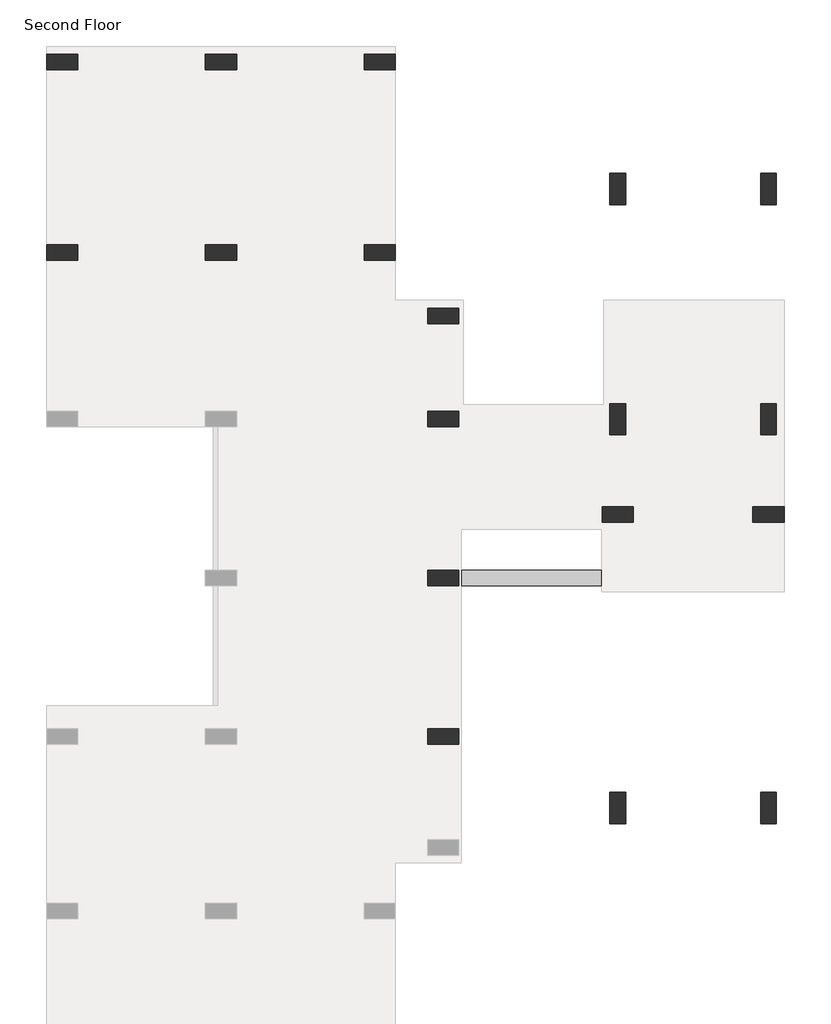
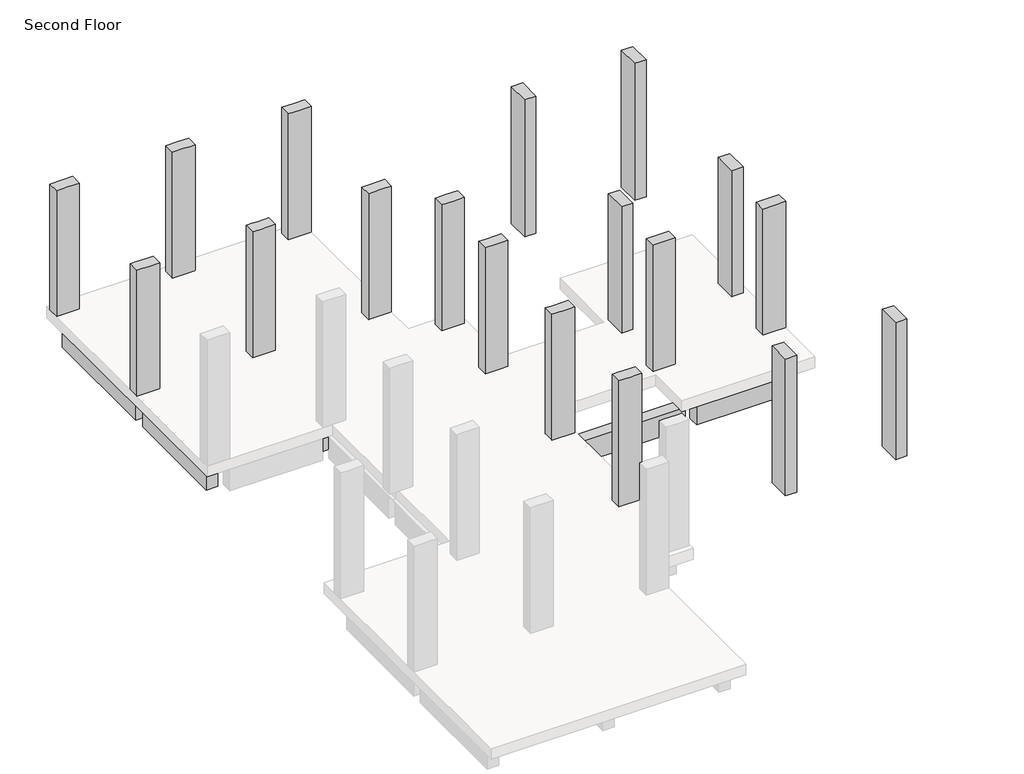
# One storey, part 2 of 2: 20 beams, 18 columns.
"""IFC4 building model written with IfcOpenShell, lengths in millimetres."""

import ifcopenshell
import ifcopenshell.guid

model = None  # the IFC model being written
_history = None  # IfcOwnerHistory: only IFC2X3 demands one
_inside = {}  # id of a spatial element -> (the spatial element, [elements in it])
_under = {}  # id of a project, library or spatial element -> (it, [spatial elements below it])
_declared = {}  # id of a project -> (the project, [libraries it declares])
_typed = {}  # id of a type object -> (the type object, [elements of that type])
_made_of = {}  # id of a material, layer set ... -> (it, [elements and type objects made of it])


def new_model(schema):
    """Start an empty IFC model of exactly this schema.

    Asked for "IFC4X3", IfcOpenShell would pick the latest addendum, in which some entities
    have other attributes; the version numbers below select the first issue.
    IFC2X3 requires an IfcOwnerHistory on every rooted entity: one is made here for all.
    """
    global model, _history
    if schema == "IFC4X3":
        model = ifcopenshell.file(schema_version=(4, 3, 0, 0))
    else:
        model = ifcopenshell.file(schema=schema)
    _inside.clear()
    _under.clear()
    _declared.clear()
    _typed.clear()
    _made_of.clear()
    _history = None
    if model.schema == "IFC2X3":
        org = make("IfcOrganization", Name="unknown")
        user = make(
            "IfcPersonAndOrganization",
            ThePerson=make("IfcPerson", FamilyName="unknown"),
            TheOrganization=org,
        )
        app = make(
            "IfcApplication",
            ApplicationDeveloper=org,
            Version="unknown",
            ApplicationFullName="unknown",
            ApplicationIdentifier="unknown",
        )
        _history = make(
            "IfcOwnerHistory",
            OwningUser=user,
            OwningApplication=app,
            ChangeAction="ADDED",
            CreationDate=0,
        )
    return model


def make(cls, **values):
    """One entity of the class cls with the attributes given. An attribute that is None is left unset."""
    return model.create_entity(
        cls, **{name: value for name, value in values.items() if value is not None}
    )


def rooted(cls, **values):
    """An entity with a GlobalId (a new one), such as an element, a storey or a relation."""
    return make(cls, GlobalId=ifcopenshell.guid.new(), OwnerHistory=_history, **values)


def si_unit(unit_type, name, prefix=None):
    """IfcSIUnit, for example si_unit("LENGTHUNIT", "METRE", prefix="MILLI")."""
    return make("IfcSIUnit", UnitType=unit_type, Prefix=prefix, Name=name)


def assignment(units):
    """IfcUnitAssignment: the units of a project."""
    return None if units is None else make("IfcUnitAssignment", Units=units)


def point(xyz):
    """IfcCartesianPoint."""
    return None if xyz is None else make("IfcCartesianPoint", Coordinates=xyz)


def direction(xyz):
    """IfcDirection."""
    return None if xyz is None else make("IfcDirection", DirectionRatios=xyz)


def frame(location, z_axis=None, x_axis=None):
    """IfcAxis2Placement3D, a coordinate frame: its origin and axes. An axis left out is left unset."""
    return make(
        "IfcAxis2Placement3D",
        Location=point(location),
        Axis=direction(z_axis),
        RefDirection=direction(x_axis),
    )


def origin():
    """The frame at (0, 0, 0) with its axes left unset."""
    return frame((0.0, 0.0, 0.0))


def place(relative_to, where):
    """IfcLocalPlacement: puts the frame where relative to a parent placement (None: the world)."""
    return make(
        "IfcLocalPlacement", PlacementRelTo=relative_to, RelativePlacement=where
    )


def context(
    kind, dimensions, precision=None, world=None, true_north=None, identifier=None
):
    """IfcGeometricRepresentationContext, for example the 3D "Model" context."""
    return make(
        "IfcGeometricRepresentationContext",
        ContextIdentifier=identifier,
        ContextType=kind,
        CoordinateSpaceDimension=dimensions,
        Precision=precision,
        WorldCoordinateSystem=world,
        TrueNorth=true_north,
    )


def project(units=None, contexts=None):
    """IfcProject with its units and contexts."""
    return rooted(
        "IfcProject",
        Name="project",
        RepresentationContexts=contexts,
        UnitsInContext=assignment(units),
    )


def spatial(cls, under=None, at=None, **own):
    """A site, building, storey or space (cls), placed at a placement, below another one or the project."""
    s = rooted(cls, ObjectPlacement=at, **own)
    if under is not None:
        _under.setdefault(under.id(), (under, []))[1].append(s)
    return s


def polyline(points):
    """IfcPolyline through the points."""
    return make("IfcPolyline", Points=[point(p) for p in points])


def outline(outer, holes=None, kind="AREA"):
    """IfcArbitraryClosedProfileDef: a profile drawn as a closed curve; with holes, ...WithVoids."""
    if holes is None:
        return make("IfcArbitraryClosedProfileDef", ProfileType=kind, OuterCurve=outer)
    return make(
        "IfcArbitraryProfileDefWithVoids",
        ProfileType=kind,
        OuterCurve=outer,
        InnerCurves=holes,
    )


def extrude(swept, where, along, depth):
    """IfcExtrudedAreaSolid: the profile swept, set in the frame where, extruded along a direction by depth."""
    return make(
        "IfcExtrudedAreaSolid",
        SweptArea=swept,
        Position=where,
        ExtrudedDirection=direction(along),
        Depth=depth,
    )


def faces_of(points, faces, orient=None, outer=None):
    """IfcFace entities. A face is a list of loops; a loop is a list of indices into points, from 0.

    orient and outer hold one flag for each loop. By default every Orientation is true, the
    first loop of a face is its IfcFaceOuterBound and the others are IfcFaceBound.
    """
    made = []
    for i, loops in enumerate(faces):
        bounds = []
        for j, loop in enumerate(loops):
            is_outer = j == 0 if outer is None else outer[i][j]
            bounds.append(
                make(
                    "IfcFaceOuterBound" if is_outer else "IfcFaceBound",
                    Bound=make("IfcPolyLoop", Polygon=[points[k] for k in loop]),
                    Orientation=True if orient is None else orient[i][j],
                )
            )
        made.append(make("IfcFace", Bounds=bounds))
    return made


def faceted_brep(points, faces, orient=None, outer=None, voids=None):
    """IfcFacetedBrep: a solid bounded by flat faces; with voids (closed shells), ...WithVoids."""
    shared = [point(p) for p in points]
    hull = make("IfcClosedShell", CfsFaces=faces_of(shared, faces, orient, outer))
    if voids is None:
        return make("IfcFacetedBrep", Outer=hull)
    return make(
        "IfcFacetedBrepWithVoids",
        Outer=hull,
        Voids=[
            make(cls, CfsFaces=faces_of(shared, fs, o, b)) for cls, fs, o, b in voids
        ],
    )


def shape(context_of_items, identifier, shape_type, items):
    """IfcShapeRepresentation: the items that make up one representation, for example the "Body"."""
    return make(
        "IfcShapeRepresentation",
        ContextOfItems=context_of_items,
        RepresentationIdentifier=identifier,
        RepresentationType=shape_type,
        Items=items,
    )


def made_of(thing, what):
    """Note that an element or type object is made of a material, layer set ...; save() writes the relation."""
    if what is not None:
        _made_of.setdefault(what.id(), (what, []))[1].append(thing)
    return thing


def element(
    cls,
    number,
    at=None,
    inside=None,
    cuts=None,
    type_object=None,
    material=None,
    context=None,
    identifier="Body",
    shape_type=None,
    held_by="IfcProductDefinitionShape",
    body=None,
    shapes=None,
    **own,
):
    """One element of the class cls, such as IfcWall. Its Tag is "e" and its number.

    at: its placement. inside: the storey or other place that contains it. cuts: it is an
    opening in that element (IfcRelVoidsElement). A single representation is given by context,
    identifier, shape_type and body (its items); several are given by shapes. held_by: the class
    of the entity that holds the representations. save() writes the other relations.
    """
    e = rooted(cls, Tag="e%d" % number, ObjectPlacement=at, **own)
    if body is not None:
        shapes = [shape(context, identifier, shape_type, body)]
    if shapes is not None:
        e.Representation = make(held_by, Representations=shapes)
    if inside is not None:
        _inside.setdefault(inside.id(), (inside, []))[1].append(e)
    if cuts is not None:
        rooted(
            "IfcRelVoidsElement", RelatingBuildingElement=cuts, RelatedOpeningElement=e
        )
    if type_object is not None:
        _typed.setdefault(type_object.id(), (type_object, []))[1].append(e)
    return made_of(e, material)


def aggregate(whole, parts):
    """IfcRelAggregates: a whole, such as a stair, and the parts it consists of."""
    return rooted("IfcRelAggregates", RelatingObject=whole, RelatedObjects=parts)


def save(model, path):
    """Write the relations noted so far, then the file.

    IfcRelAggregates (storeys below a building ...), IfcRelContainedInSpatialStructure (elements
    in a storey), IfcRelDefinesByType, IfcRelAssociatesMaterial and IfcRelDeclares: one each for
    every whole, place, type object, material and project.
    """
    for whole, parts in _under.values():
        aggregate(whole, parts)
    for where, things in _inside.values():
        rooted(
            "IfcRelContainedInSpatialStructure",
            RelatedElements=things,
            RelatingStructure=where,
        )
    for kind, things in _typed.values():
        rooted("IfcRelDefinesByType", RelatedObjects=things, RelatingType=kind)
    for what, things in _made_of.values():
        rooted("IfcRelAssociatesMaterial", RelatedObjects=things, RelatingMaterial=what)
    for by, libraries in _declared.values():
        rooted("IfcRelDeclares", RelatingContext=by, RelatedDefinitions=libraries)
    model.write(path)


model = new_model("IFC4")

# Units and contexts
model_context = context("Model", 3, world=origin())
ifc_project = project(units=[si_unit("LENGTHUNIT", "METRE", prefix="MILLI")], contexts=[model_context])

# Site, building, storey
site = spatial("IfcSite", under=ifc_project)
building = spatial("IfcBuilding", under=site)
storey = spatial("IfcBuildingStorey", under=building, Name="Second Floor", Elevation=3810.0)

# Beams
placement = place(None, origin())
element("IfcBeam", 1, ObjectType="M_Concrete-Rectangular Beam : 300 x 600mm", at=placement, inside=storey, context=model_context, shape_type="Brep", body=[
    faceted_brep([(-9783.3472303, 14876.016665, 3510.0), (-12831.3472303, 14876.016665, 3510.0), (-12831.3472303, 14726.016665, 3510.0), (-12831.3472303, 14576.016665, 3510.0), (-12681.3472303, 14576.016665, 3510.0), (-9933.3472303, 14576.016665, 3510.0), (-9783.3472303, 14576.016665, 3510.0), (-9783.3472303, 14726.016665, 3510.0), (-12831.3472303, 14576.016665, 3505.2), (-12531.3472303, 14576.016665, 3505.2), (-12531.3472303, 14576.016665, 2910.0), (-10083.3472303, 14576.016665, 2910.0), (-10083.3472303, 14576.016665, 3505.2), (-9783.3472303, 14576.016665, 3505.2), (-12531.3472303, 14876.016665, 2910.0), (-10083.3472303, 14876.016665, 2910.0), (-9783.3472303, 14876.016665, 3505.2), (-10083.3472303, 14876.016665, 3505.2), (-12531.3472303, 14876.016665, 3505.2), (-12831.3472303, 14876.016665, 3505.2), (-12831.3472303, 14726.016665, 3505.2), (-9783.3472303, 14726.016665, 3505.2)], [[[0, 1, 2, 3, 4, 5, 6, 7]], [[6, 5, 4, 3, 8, 9, 10, 11, 12, 13]], [[10, 14, 15, 11]], [[1, 0, 16, 17, 15, 14, 18, 19]], [[9, 18, 14, 10]], [[18, 9, 8, 20, 19]], [[17, 12, 11, 15]], [[12, 17, 16, 21, 13]], [[3, 2, 1, 19, 20, 8]], [[0, 7, 6, 13, 21, 16]]]),
])
element("IfcBeam", 2, ObjectType="M_Concrete-Rectangular Beam : 300 x 600mm", at=placement, inside=storey, context=model_context, shape_type="Brep", body=[
    faceted_brep([(-6735.3472303, 14876.016665, 3510.0), (-9783.3472303, 14876.016665, 3510.0), (-9783.3472303, 14726.016665, 3510.0), (-9633.3472303, 14726.016665, 3510.0), (-9633.3472303, 14576.016665, 3510.0), (-6885.3472303, 14576.016665, 3510.0), (-6735.3472303, 14576.016665, 3510.0), (-6735.3472303, 14726.016665, 3510.0), (-9483.3472303, 14576.016665, 3505.2), (-9483.3472303, 14576.016665, 2910.0), (-7035.3472303, 14576.016665, 2910.0), (-7035.3472303, 14576.016665, 3505.2), (-6735.3472303, 14576.016665, 3505.2), (-9633.3472303, 14576.016665, 3505.2), (-9483.3472303, 14876.016665, 2910.0), (-7035.3472303, 14876.016665, 2910.0), (-6735.3472303, 14876.016665, 3505.2), (-7035.3472303, 14876.016665, 3505.2), (-9483.3472303, 14876.016665, 3505.2), (-9783.3472303, 14876.016665, 3505.2), (-9633.3472303, 14726.016665, 3505.2), (-9783.3472303, 14726.016665, 3505.2), (-6735.3472303, 14726.016665, 3505.2)], [[[0, 1, 2, 3, 4, 5, 6, 7]], [[8, 9, 10, 11, 12, 6, 5, 4, 13]], [[9, 14, 15, 10]], [[1, 0, 16, 17, 15, 14, 18, 19]], [[8, 18, 14, 9]], [[18, 8, 13, 20, 21, 19]], [[17, 11, 10, 15]], [[11, 17, 16, 22, 12]], [[3, 20, 13, 4]], [[1, 19, 21, 2]], [[0, 7, 6, 12, 22, 16]], [[20, 3, 2, 21]]]),
])
element("IfcBeam", 3, ObjectType="M_Concrete-Rectangular Beam : 300 x 600mm", at=placement, inside=storey, context=model_context, shape_type="Brep", body=[
    faceted_brep([(-6585.3472303, 11069.016665, 3510.0), (-6585.3472303, 14726.016665, 3510.0), (-6735.3472303, 14726.016665, 3510.0), (-6735.3472303, 14576.016665, 3510.0), (-6885.3472303, 14576.016665, 3510.0), (-6885.3472303, 11219.016665, 3510.0), (-6885.3472303, 11069.016665, 3510.0), (-6735.3472303, 11069.016665, 3510.0), (-6885.3472303, 14576.016665, 2910.0), (-6885.3472303, 11219.016665, 2910.0), (-6885.3472303, 11219.016665, 3505.2), (-6885.3472303, 11069.016665, 3505.2), (-6585.3472303, 14576.016665, 2910.0), (-6585.3472303, 11219.016665, 2910.0), (-6585.3472303, 11069.016665, 3505.2), (-6585.3472303, 11219.016665, 3505.2), (-6585.3472303, 14576.016665, 3505.2), (-6585.3472303, 14726.016665, 3505.2), (-6735.3472303, 14576.016665, 3505.2), (-6735.3472303, 14726.016665, 3505.2), (-6735.3472303, 11069.016665, 3505.2)], [[[0, 1, 2, 3, 4, 5, 6, 7]], [[6, 5, 4, 8, 9, 10, 11]], [[8, 12, 13, 9]], [[1, 0, 14, 15, 13, 12, 16, 17]], [[4, 3, 18, 16, 12, 8]], [[16, 18, 19, 17]], [[15, 10, 9, 13]], [[10, 15, 14, 20, 11]], [[2, 1, 17, 19]], [[0, 7, 6, 11, 20, 14]], [[3, 2, 19, 18]]]),
])
element("IfcBeam", 4, ObjectType="M_Concrete-Rectangular Beam : 300 x 600mm", at=placement, inside=storey, context=model_context, shape_type="Brep", body=[
    faceted_brep([(-6585.3472303, 9700.016665, 3510.0), (-6585.3472303, 10000.016665, 3510.0), (-6585.3472303, 11069.016665, 3510.0), (-6735.3472303, 11069.016665, 3510.0), (-6735.3472303, 10919.016665, 3510.0), (-6885.3472303, 10919.016665, 3510.0), (-6885.3472303, 9700.016665, 3510.0), (-6885.3472303, 9700.016665, 2910.0), (-6885.3472303, 10919.016665, 2910.0), (-6585.3472303, 9700.016665, 2910.0), (-6585.3472303, 10919.016665, 2910.0), (-6585.3472303, 10000.016665, 2910.0), (-6585.3472303, 10919.016665, 3505.2), (-6585.3472303, 11069.016665, 3505.2), (-6735.3472303, 11069.016665, 3505.2), (-6735.3472303, 10919.016665, 3505.2)], [[[0, 1, 2, 3, 4, 5, 6]], [[7, 6, 5, 8]], [[9, 7, 8, 10, 11]], [[2, 1, 0, 9, 11, 10, 12, 13]], [[2, 13, 14, 3]], [[0, 6, 7, 9]], [[5, 4, 15, 12, 10, 8]], [[13, 12, 15, 14]], [[15, 4, 3, 14]]]),
])
element("IfcBeam", 5, ObjectType="M_Concrete-Rectangular Beam : 300 x 600mm", at=placement, inside=storey, context=model_context, shape_type="Brep", body=[
    faceted_brep([(-6585.3472303, 10000.016665, 3510.0), (-6585.3472303, 9700.016665, 3510.0), (-5666.3472303, 9700.016665, 3510.0), (-5516.3472303, 9700.016665, 3510.0), (-5516.3472303, 9850.016665, 3510.0), (-5516.3472303, 10000.016665, 3510.0), (-6585.3472303, 9700.016665, 2910.0), (-5816.3472303, 9700.016665, 2910.0), (-5816.3472303, 9700.016665, 3505.2), (-5516.3472303, 9700.016665, 3505.2), (-6585.3472303, 10000.016665, 2910.0), (-5816.3472303, 10000.016665, 2910.0), (-5516.3472303, 10000.016665, 3505.2), (-5816.3472303, 10000.016665, 3505.2), (-5516.3472303, 9850.016665, 3505.2)], [[[0, 1, 2, 3, 4, 5]], [[3, 2, 1, 6, 7, 8, 9]], [[6, 10, 11, 7]], [[10, 0, 5, 12, 13, 11]], [[1, 0, 10, 6]], [[13, 8, 7, 11]], [[8, 13, 12, 14, 9]], [[5, 4, 3, 9, 14, 12]]]),
])
element("IfcBeam", 6, ObjectType="M_Concrete-Rectangular Beam : 300 x 600mm", at=placement, inside=storey, context=model_context, shape_type="Brep", body=[
    faceted_brep([(-5366.3472303, 7869.016665, 3510.0), (-5366.3472303, 8019.016665, 3510.0), (-5366.3472303, 9850.016665, 3510.0), (-5516.3472303, 9850.016665, 3510.0), (-5516.3472303, 9700.016665, 3510.0), (-5666.3472303, 9700.016665, 3510.0), (-5666.3472303, 8019.016665, 3510.0), (-5666.3472303, 7869.016665, 3510.0), (-5516.3472303, 7869.016665, 3510.0), (-5666.3472303, 9700.016665, 2910.0), (-5666.3472303, 8019.016665, 2910.0), (-5666.3472303, 8019.016665, 3505.2), (-5666.3472303, 7869.016665, 3505.2), (-5366.3472303, 9700.016665, 2910.0), (-5366.3472303, 8019.016665, 2910.0), (-5366.3472303, 7869.016665, 3505.2), (-5366.3472303, 8019.016665, 3505.2), (-5366.3472303, 9700.016665, 3505.2), (-5366.3472303, 9850.016665, 3505.2), (-5516.3472303, 9700.016665, 3505.2), (-5516.3472303, 9850.016665, 3505.2), (-5516.3472303, 7869.016665, 3505.2)], [[[0, 1, 2, 3, 4, 5, 6, 7, 8]], [[7, 6, 5, 9, 10, 11, 12]], [[9, 13, 14, 10]], [[2, 1, 0, 15, 16, 14, 13, 17, 18]], [[5, 4, 19, 17, 13, 9]], [[17, 19, 20, 18]], [[16, 11, 10, 14]], [[11, 16, 15, 21, 12]], [[3, 2, 18, 20]], [[0, 8, 7, 12, 21, 15]], [[4, 3, 20, 19]]]),
])
element("IfcBeam", 7, ObjectType="M_Concrete-Rectangular Beam : 300 x 600mm", at=placement, inside=storey, context=model_context, shape_type="Brep", body=[
    faceted_brep([(-5366.3472303, 4821.016665, 3510.0), (-5366.3472303, 4971.016665, 3510.0), (-5366.3472303, 7719.016665, 3510.0), (-5366.3472303, 7869.016665, 3510.0), (-5516.3472303, 7869.016665, 3510.0), (-5516.3472303, 7719.016665, 3510.0), (-5666.3472303, 7719.016665, 3510.0), (-5666.3472303, 4971.016665, 3510.0), (-5666.3472303, 4821.016665, 3510.0), (-5516.3472303, 4821.016665, 3510.0), (-5666.3472303, 4971.016665, 2910.0), (-5666.3472303, 4971.016665, 3505.2), (-5666.3472303, 4821.016665, 3505.2), (-5666.3472303, 7719.016665, 2910.0), (-5366.3472303, 4971.016665, 2910.0), (-5366.3472303, 7719.016665, 2910.0), (-5366.3472303, 4821.016665, 3505.2), (-5366.3472303, 4971.016665, 3505.2), (-5366.3472303, 7719.016665, 3505.2), (-5366.3472303, 7869.016665, 3505.2), (-5516.3472303, 7719.016665, 3505.2), (-5516.3472303, 7869.016665, 3505.2), (-5516.3472303, 4821.016665, 3505.2)], [[[0, 1, 2, 3, 4, 5, 6, 7, 8, 9]], [[10, 11, 12, 8, 7, 6, 13]], [[14, 10, 13, 15]], [[3, 2, 1, 0, 16, 17, 14, 15, 18, 19]], [[6, 5, 20, 18, 15, 13]], [[19, 18, 20, 21]], [[17, 11, 10, 14]], [[11, 17, 16, 22, 12]], [[3, 19, 21, 4]], [[0, 9, 8, 12, 22, 16]], [[20, 5, 4, 21]]]),
])
element("IfcBeam", 8, ObjectType="M_Concrete-Rectangular Beam : 300 x 600mm", at=placement, inside=storey, context=model_context, shape_type="Brep", body=[
    faceted_brep([(-9783.3472303, 4671.016665, 3510.0), (-9633.3472303, 4671.016665, 3510.0), (-5666.3472303, 4671.016665, 3510.0), (-5516.3472303, 4671.016665, 3510.0), (-5516.3472303, 4821.016665, 3510.0), (-5666.3472303, 4821.016665, 3510.0), (-5666.3472303, 4971.016665, 3510.0), (-9633.3472303, 4971.016665, 3510.0), (-9783.3472303, 4971.016665, 3510.0), (-9783.3472303, 4821.016665, 3510.0), (-9483.3472303, 4971.016665, 2910.0), (-9483.3472303, 4971.016665, 3505.2), (-9783.3472303, 4971.016665, 3505.2), (-5666.3472303, 4971.016665, 3505.2), (-5816.3472303, 4971.016665, 3505.2), (-5816.3472303, 4971.016665, 2910.0), (-9483.3472303, 4671.016665, 2910.0), (-5816.3472303, 4671.016665, 2910.0), (-9783.3472303, 4671.016665, 3505.2), (-9483.3472303, 4671.016665, 3505.2), (-5816.3472303, 4671.016665, 3505.2), (-5516.3472303, 4671.016665, 3505.2), (-5666.3472303, 4821.016665, 3505.2), (-9783.3472303, 4821.016665, 3505.2), (-5516.3472303, 4821.016665, 3505.2)], [[[0, 1, 2, 3, 4, 5, 6, 7, 8, 9]], [[10, 11, 12, 8, 7, 6, 13, 14, 15]], [[16, 10, 15, 17]], [[3, 2, 1, 0, 18, 19, 16, 17, 20, 21]], [[6, 5, 22, 13]], [[19, 11, 10, 16]], [[11, 19, 18, 23, 12]], [[14, 20, 17, 15]], [[20, 14, 13, 22, 24, 21]], [[0, 9, 8, 12, 23, 18]], [[4, 3, 21, 24]], [[5, 4, 24, 22]]]),
])
element("IfcBeam", 9, ObjectType="M_Concrete-Rectangular Beam : 300 x 600mm", at=placement, inside=storey, context=model_context, shape_type="Brep", body=[
    faceted_brep([(-5666.3472303, 7869.016665, 3510.0), (-5666.3472303, 8019.016665, 3510.0), (-9633.3472303, 8019.016665, 3510.0), (-9783.3472303, 8019.016665, 3510.0), (-9783.3472303, 7869.016665, 3510.0), (-9633.3472303, 7869.016665, 3510.0), (-9633.3472303, 7719.016665, 3510.0), (-5666.3472303, 7719.016665, 3510.0), (-5516.3472303, 7719.016665, 3510.0), (-5516.3472303, 7869.016665, 3510.0), (-9633.3472303, 7719.016665, 3505.2), (-9483.3472303, 7719.016665, 3505.2), (-9483.3472303, 7719.016665, 2910.0), (-5816.3472303, 7719.016665, 2910.0), (-5816.3472303, 7719.016665, 3505.2), (-5516.3472303, 7719.016665, 3505.2), (-9483.3472303, 8019.016665, 2910.0), (-5816.3472303, 8019.016665, 2910.0), (-9483.3472303, 8019.016665, 3505.2), (-9783.3472303, 8019.016665, 3505.2), (-5666.3472303, 8019.016665, 3505.2), (-5816.3472303, 8019.016665, 3505.2), (-5666.3472303, 7869.016665, 3505.2), (-9633.3472303, 7869.016665, 3505.2), (-9783.3472303, 7869.016665, 3505.2), (-5516.3472303, 7869.016665, 3505.2)], [[[0, 1, 2, 3, 4, 5, 6, 7, 8, 9]], [[6, 10, 11, 12, 13, 14, 15, 8, 7]], [[12, 16, 17, 13]], [[16, 18, 19, 3, 2, 1, 20, 21, 17]], [[1, 0, 22, 20]], [[6, 5, 23, 10]], [[11, 18, 16, 12]], [[18, 11, 10, 23, 24, 19]], [[21, 14, 13, 17]], [[14, 21, 20, 22, 25, 15]], [[4, 3, 19, 24]], [[9, 8, 15, 25]], [[0, 9, 25, 22]], [[5, 4, 24, 23]]]),
])
element("IfcBeam", 10, ObjectType="M_Concrete-Rectangular Beam : 300 x 600mm", at=placement, inside=storey, context=model_context, shape_type="Brep", body=[
    faceted_brep([(-9933.3472303, 11069.016665, 3510.0), (-9933.3472303, 10919.016665, 3510.0), (-9933.3472303, 8019.016665, 3510.0), (-9933.3472303, 7869.016665, 3510.0), (-9783.3472303, 7869.016665, 3510.0), (-9783.3472303, 8019.016665, 3510.0), (-9633.3472303, 8019.016665, 3510.0), (-9633.3472303, 10919.016665, 3510.0), (-9633.3472303, 11069.016665, 3510.0), (-9783.3472303, 11069.016665, 3510.0), (-9633.3472303, 10919.016665, 2910.0), (-9633.3472303, 10919.016665, 3505.2), (-9633.3472303, 11069.016665, 3505.2), (-9633.3472303, 8019.016665, 2910.0), (-9933.3472303, 10919.016665, 2910.0), (-9933.3472303, 8019.016665, 2910.0), (-9933.3472303, 11069.016665, 3505.2), (-9933.3472303, 10919.016665, 3505.2), (-9933.3472303, 8019.016665, 3505.2), (-9933.3472303, 7869.016665, 3505.2), (-9783.3472303, 8019.016665, 3505.2), (-9783.3472303, 11069.016665, 3505.2), (-9783.3472303, 7869.016665, 3505.2)], [[[0, 1, 2, 3, 4, 5, 6, 7, 8, 9]], [[10, 11, 12, 8, 7, 6, 13]], [[14, 10, 13, 15]], [[3, 2, 1, 0, 16, 17, 14, 15, 18, 19]], [[6, 5, 20, 18, 15, 13]], [[17, 11, 10, 14]], [[11, 17, 16, 21, 12]], [[18, 20, 22, 19]], [[0, 9, 8, 12, 21, 16]], [[4, 3, 19, 22]], [[5, 4, 22, 20]]]),
])
element("IfcBeam", 11, ObjectType="M_Concrete-Rectangular Beam : 300 x 600mm", at=placement, inside=storey, context=model_context, shape_type="Brep", body=[
    faceted_brep([(-6885.3472303, 11069.016665, 3510.0), (-6885.3472303, 11219.016665, 3510.0), (-9633.3472303, 11219.016665, 3510.0), (-9783.3472303, 11219.016665, 3510.0), (-9783.3472303, 11069.016665, 3510.0), (-9633.3472303, 11069.016665, 3510.0), (-9633.3472303, 10919.016665, 3510.0), (-6885.3472303, 10919.016665, 3510.0), (-6735.3472303, 10919.016665, 3510.0), (-6735.3472303, 11069.016665, 3510.0), (-9633.3472303, 10919.016665, 3505.2), (-9483.3472303, 10919.016665, 3505.2), (-9483.3472303, 10919.016665, 2910.0), (-7035.3472303, 10919.016665, 2910.0), (-7035.3472303, 10919.016665, 3505.2), (-6735.3472303, 10919.016665, 3505.2), (-9483.3472303, 11219.016665, 2910.0), (-7035.3472303, 11219.016665, 2910.0), (-9483.3472303, 11219.016665, 3505.2), (-9783.3472303, 11219.016665, 3505.2), (-6885.3472303, 11219.016665, 3505.2), (-7035.3472303, 11219.016665, 3505.2), (-6885.3472303, 11069.016665, 3505.2), (-9633.3472303, 11069.016665, 3505.2), (-9783.3472303, 11069.016665, 3505.2), (-6735.3472303, 11069.016665, 3505.2)], [[[0, 1, 2, 3, 4, 5, 6, 7, 8, 9]], [[6, 10, 11, 12, 13, 14, 15, 8, 7]], [[12, 16, 17, 13]], [[16, 18, 19, 3, 2, 1, 20, 21, 17]], [[1, 0, 22, 20]], [[6, 5, 23, 10]], [[11, 18, 16, 12]], [[18, 11, 10, 23, 24, 19]], [[21, 14, 13, 17]], [[14, 21, 20, 22, 25, 15]], [[4, 3, 19, 24]], [[9, 8, 15, 25]], [[0, 9, 25, 22]], [[5, 4, 24, 23]]]),
])
element("IfcBeam", 12, ObjectType="M_Concrete-Rectangular Beam : 300 x 600mm", at=placement, inside=storey, context=model_context, shape_type="Brep", body=[
    faceted_brep([(-9783.3472303, 14576.016665, 3510.0), (-9933.3472303, 14576.016665, 3510.0), (-9933.3472303, 11219.016665, 3510.0), (-9933.3472303, 11069.016665, 3510.0), (-9783.3472303, 11069.016665, 3510.0), (-9783.3472303, 11219.016665, 3510.0), (-9633.3472303, 11219.016665, 3510.0), (-9633.3472303, 14576.016665, 3510.0), (-9633.3472303, 14726.016665, 3510.0), (-9783.3472303, 14726.016665, 3510.0), (-9633.3472303, 11219.016665, 2910.0), (-9633.3472303, 14576.016665, 2910.0), (-9633.3472303, 14576.016665, 3505.2), (-9633.3472303, 14726.016665, 3505.2), (-9933.3472303, 11219.016665, 2910.0), (-9933.3472303, 14576.016665, 2910.0), (-9933.3472303, 11219.016665, 3505.2), (-9933.3472303, 11069.016665, 3505.2), (-9783.3472303, 14576.016665, 3505.2), (-9783.3472303, 11219.016665, 3505.2), (-9783.3472303, 14726.016665, 3505.2), (-9783.3472303, 11069.016665, 3505.2)], [[[0, 1, 2, 3, 4, 5, 6, 7, 8, 9]], [[8, 7, 6, 10, 11, 12, 13]], [[10, 14, 15, 11]], [[3, 2, 1, 15, 14, 16, 17]], [[1, 0, 18, 12, 11, 15]], [[6, 5, 19, 16, 14, 10]], [[12, 18, 20, 13]], [[16, 19, 21, 17]], [[9, 8, 13, 20]], [[4, 3, 17, 21]], [[0, 9, 20, 18]], [[5, 4, 21, 19]]]),
])
element("IfcBeam", 13, ObjectType="M_Concrete-Rectangular Beam : 300 x 600mm", at=placement, inside=storey, context=model_context, shape_type="Brep", body=[
    faceted_brep([(-12981.3472303, 14726.016665, 3510.0), (-12981.3472303, 11069.016665, 3510.0), (-12831.3472303, 11069.016665, 3510.0), (-12681.3472303, 11069.016665, 3510.0), (-12681.3472303, 11219.016665, 3510.0), (-12681.3472303, 14576.016665, 3510.0), (-12831.3472303, 14576.016665, 3510.0), (-12831.3472303, 14726.016665, 3510.0), (-12981.3472303, 14726.016665, 3505.2), (-12981.3472303, 14576.016665, 3505.2), (-12981.3472303, 14576.016665, 2910.0), (-12981.3472303, 11219.016665, 2910.0), (-12981.3472303, 11219.016665, 3505.2), (-12981.3472303, 11069.016665, 3505.2), (-12681.3472303, 14576.016665, 2910.0), (-12681.3472303, 11219.016665, 2910.0), (-12681.3472303, 11069.016665, 3505.2), (-12681.3472303, 11219.016665, 3505.2), (-12831.3472303, 14576.016665, 3505.2), (-12831.3472303, 14726.016665, 3505.2), (-12831.3472303, 11069.016665, 3505.2)], [[[0, 1, 2, 3, 4, 5, 6, 7]], [[1, 0, 8, 9, 10, 11, 12, 13]], [[10, 14, 15, 11]], [[5, 4, 3, 16, 17, 15, 14]], [[6, 5, 14, 10, 9, 18]], [[18, 9, 8, 19]], [[17, 12, 11, 15]], [[12, 17, 16, 20, 13]], [[0, 7, 19, 8]], [[3, 2, 1, 13, 20, 16]], [[7, 6, 18, 19]]]),
])
element("IfcBeam", 14, ObjectType="M_Concrete-Rectangular Beam : 300 x 600mm", at=placement, inside=storey, context=model_context, shape_type="Brep", body=[
    faceted_brep([(-12681.3472303, 11219.016665, 3510.0), (-12681.3472303, 11069.016665, 3510.0), (-12831.3472303, 11069.016665, 3510.0), (-12831.3472303, 10919.016665, 3510.0), (-12681.3472303, 10919.016665, 3510.0), (-9933.3472303, 10919.016665, 3510.0), (-9933.3472303, 11069.016665, 3510.0), (-9933.3472303, 11219.016665, 3510.0), (-12531.3472303, 10919.016665, 3505.2), (-12531.3472303, 10919.016665, 2910.0), (-10083.3472303, 10919.016665, 2910.0), (-10083.3472303, 10919.016665, 3505.2), (-9933.3472303, 10919.016665, 3505.2), (-12831.3472303, 10919.016665, 3505.2), (-12531.3472303, 11219.016665, 2910.0), (-10083.3472303, 11219.016665, 2910.0), (-12681.3472303, 11219.016665, 3505.2), (-9933.3472303, 11219.016665, 3505.2), (-10083.3472303, 11219.016665, 3505.2), (-12531.3472303, 11219.016665, 3505.2), (-9933.3472303, 11069.016665, 3505.2), (-12681.3472303, 11069.016665, 3505.2), (-12831.3472303, 11069.016665, 3505.2)], [[[0, 1, 2, 3, 4, 5, 6, 7]], [[8, 9, 10, 11, 12, 5, 4, 3, 13]], [[9, 14, 15, 10]], [[16, 0, 7, 17, 18, 15, 14, 19]], [[7, 6, 5, 12, 20, 17]], [[1, 0, 16, 21]], [[8, 19, 14, 9]], [[19, 8, 13, 22, 21, 16]], [[18, 11, 10, 15]], [[11, 18, 17, 20, 12]], [[3, 2, 22, 13]], [[2, 1, 21, 22]]]),
])
element("IfcBeam", 15, ObjectType="M_Concrete-Rectangular Beam : 300 x 600mm", at=placement, inside=storey, context=model_context, shape_type="Brep", body=[
    faceted_brep([(-12981.3472303, 11069.016665, 3510.0), (-12981.3472303, 7869.016665, 3510.0), (-12831.3472303, 7869.016665, 3510.0), (-12681.3472303, 7869.016665, 3510.0), (-12681.3472303, 8019.016665, 3510.0), (-12681.3472303, 10919.016665, 3510.0), (-12831.3472303, 10919.016665, 3510.0), (-12831.3472303, 11069.016665, 3510.0), (-12981.3472303, 11069.016665, 3505.2), (-12981.3472303, 10919.016665, 3505.2), (-12981.3472303, 10919.016665, 2910.0), (-12981.3472303, 8019.016665, 2910.0), (-12981.3472303, 8019.016665, 3505.2), (-12981.3472303, 7869.016665, 3505.2), (-12681.3472303, 10919.016665, 2910.0), (-12681.3472303, 8019.016665, 2910.0), (-12681.3472303, 7869.016665, 3505.2), (-12681.3472303, 8019.016665, 3505.2), (-12831.3472303, 10919.016665, 3505.2), (-12831.3472303, 11069.016665, 3505.2), (-12831.3472303, 7869.016665, 3505.2)], [[[0, 1, 2, 3, 4, 5, 6, 7]], [[1, 0, 8, 9, 10, 11, 12, 13]], [[10, 14, 15, 11]], [[5, 4, 3, 16, 17, 15, 14]], [[6, 5, 14, 10, 9, 18]], [[18, 9, 8, 19]], [[17, 12, 11, 15]], [[12, 17, 16, 20, 13]], [[0, 7, 19, 8]], [[3, 2, 1, 13, 20, 16]], [[7, 6, 18, 19]]]),
])
element("IfcBeam", 16, ObjectType="M_Concrete-Rectangular Beam : 300 x 600mm", at=placement, inside=storey, context=model_context, shape_type="Brep", body=[
    faceted_brep([(-5366.3472303, 1773.016665, 3510.0), (-5366.3472303, 4671.016665, 3510.0), (-5366.3472303, 4821.016665, 3510.0), (-5516.3472303, 4821.016665, 3510.0), (-5516.3472303, 4671.016665, 3510.0), (-5666.3472303, 4671.016665, 3510.0), (-5666.3472303, 1923.016665, 3510.0), (-5666.3472303, 1773.016665, 3510.0), (-5516.3472303, 1773.016665, 3510.0), (-5666.3472303, 4671.016665, 2910.0), (-5666.3472303, 1923.016665, 2910.0), (-5666.3472303, 1923.016665, 3505.2), (-5666.3472303, 1773.016665, 3505.2), (-5366.3472303, 4671.016665, 2910.0), (-5366.3472303, 1923.016665, 2910.0), (-5366.3472303, 1773.016665, 3505.2), (-5366.3472303, 1923.016665, 3505.2), (-5366.3472303, 4671.016665, 3505.2), (-5366.3472303, 4821.016665, 3505.2), (-5516.3472303, 4671.016665, 3505.2), (-5516.3472303, 4821.016665, 3505.2), (-5516.3472303, 1773.016665, 3505.2)], [[[0, 1, 2, 3, 4, 5, 6, 7, 8]], [[7, 6, 5, 9, 10, 11, 12]], [[9, 13, 14, 10]], [[2, 1, 0, 15, 16, 14, 13, 17, 18]], [[5, 4, 19, 17, 13, 9]], [[17, 19, 20, 18]], [[16, 11, 10, 14]], [[11, 16, 15, 21, 12]], [[3, 2, 18, 20]], [[0, 8, 7, 12, 21, 15]], [[4, 3, 20, 19]]]),
])
element("IfcBeam", 17, ObjectType="M_Concrete-Rectangular Beam : 300 x 600mm", at=placement, inside=storey, context=model_context, shape_type="Brep", body=[
    faceted_brep([(-2313.3472303, 8019.016665, 3510.0), (-5366.3472303, 8019.016665, 3510.0), (-5366.3472303, 7869.016665, 3510.0), (-5366.3472303, 7719.016665, 3510.0), (-2313.3472303, 7719.016665, 3510.0), (-5366.3472303, 7719.016665, 3505.2), (-5216.3472303, 7719.016665, 3505.2), (-5216.3472303, 7719.016665, 2910.0), (-2313.3472303, 7719.016665, 2910.0), (-2313.3472303, 8019.016665, 2910.0), (-5216.3472303, 8019.016665, 2910.0), (-5216.3472303, 8019.016665, 3505.2), (-5366.3472303, 8019.016665, 3505.2), (-5366.3472303, 7869.016665, 3505.2)], [[[0, 1, 2, 3, 4]], [[4, 3, 5, 6, 7, 8]], [[9, 8, 7, 10]], [[1, 0, 9, 10, 11, 12]], [[0, 4, 8, 9]], [[3, 2, 1, 12, 13, 5]], [[6, 11, 10, 7]], [[11, 6, 5, 13, 12]]]),
])
element("IfcBeam", 18, ObjectType="M_Concrete-Rectangular Beam : 300 x 600mm", at=placement, inside=storey, context=model_context, shape_type="Brep", body=[
    faceted_brep([(-2313.3472303, 4671.016665, 3510.0), (-2313.3472303, 4971.016665, 3510.0), (-5366.3472303, 4971.016665, 3510.0), (-5366.3472303, 4821.016665, 3510.0), (-5366.3472303, 4671.016665, 3510.0), (-2313.3472303, 4671.016665, 2910.0), (-5366.3472303, 4671.016665, 3505.2), (-5216.3472303, 4671.016665, 3505.2), (-5216.3472303, 4671.016665, 2910.0), (-2313.3472303, 4971.016665, 2910.0), (-5216.3472303, 4971.016665, 2910.0), (-5216.3472303, 4971.016665, 3505.2), (-5366.3472303, 4971.016665, 3505.2), (-5366.3472303, 4821.016665, 3505.2)], [[[0, 1, 2, 3, 4]], [[5, 0, 4, 6, 7, 8]], [[9, 5, 8, 10]], [[1, 9, 10, 11, 12, 2]], [[1, 0, 5, 9]], [[2, 12, 13, 6, 4, 3]], [[7, 11, 10, 8]], [[11, 7, 6, 13, 12]]]),
])
element("IfcBeam", 19, ObjectType="M_Concrete-Rectangular Beam : 300 x 600mm", at=placement, inside=storey, context=model_context, shape_type="SweptSolid", body=[
    extrude(outline(polyline([(-2013.3472303, 7719.016665), (-2013.3472303, 8019.016665), (582.6527697, 8019.016665), (582.6527697, 7719.016665), (-2013.3472303, 7719.016665)])), frame((0.0, 0.0, 2910.0), z_axis=(0.0, 0.0, 1.0), x_axis=(1.0, 0.0, 0.0)), (0.0, 0.0, 1.0), 600.0),
])
element("IfcBeam", 20, ObjectType="M_Concrete-Rectangular Beam : 300 x 600mm", at=placement, inside=storey, context=model_context, shape_type="SweptSolid", body=[
    extrude(outline(polyline([(582.6527697, 4971.016665), (582.6527697, 4671.016665), (-2013.3472303, 4671.016665), (-2013.3472303, 4971.016665), (582.6527697, 4971.016665)])), frame((0.0, 0.0, 2910.0), z_axis=(0.0, 0.0, 1.0), x_axis=(1.0, 0.0, 0.0)), (0.0, 0.0, 1.0), 600.0),
])

# Columns
element("IfcColumn", 21, ObjectType="M_Concrete-Rectangular-Column : 300 x 600mm", at=placement, inside=storey, context=model_context, shape_type="Brep", body=[
    faceted_brep([(-13131.3472303, 14876.016665, 3810.0), (-12531.3472303, 14876.016665, 3810.0), (-12531.3472303, 14576.016665, 3810.0), (-13131.3472303, 14576.016665, 3810.0), (-13131.3472303, 14876.016665, 7315.2), (-12831.3472303, 14876.016665, 7315.2), (-12531.3472303, 14876.016665, 7315.2), (-12531.3472303, 14876.016665, 6720.0), (-12531.3472303, 14576.016665, 7315.2), (-12531.3472303, 14576.016665, 6720.0), (-12831.3472303, 14576.016665, 7315.2), (-12981.3472303, 14576.016665, 7315.2), (-13131.3472303, 14576.016665, 7315.2)], [[[0, 1, 2, 3]], [[4, 5, 6, 7, 1, 0]], [[6, 8, 9, 2, 1, 7]], [[8, 10, 11, 12, 3, 2, 9]], [[12, 4, 0, 3]], [[4, 12, 11, 10, 8, 6, 5]]]),
])
element("IfcColumn", 22, ObjectType="M_Concrete-Rectangular-Column : 300 x 600mm", at=placement, inside=storey, context=model_context, shape_type="Brep", body=[
    faceted_brep([(-10083.3472303, 14876.016665, 3810.0), (-9483.3472303, 14876.016665, 3810.0), (-9483.3472303, 14576.016665, 3810.0), (-10083.3472303, 14576.016665, 3810.0), (-10083.3472303, 14876.016665, 7315.2), (-9783.3472303, 14876.016665, 7315.2), (-9483.3472303, 14876.016665, 7315.2), (-9483.3472303, 14876.016665, 6720.0), (-10083.3472303, 14876.016665, 6720.0), (-9483.3472303, 14576.016665, 7315.2), (-9483.3472303, 14576.016665, 6720.0), (-9633.3472303, 14576.016665, 7315.2), (-9783.3472303, 14576.016665, 7315.2), (-10083.3472303, 14576.016665, 7315.2), (-10083.3472303, 14576.016665, 6720.0)], [[[0, 1, 2, 3]], [[4, 5, 6, 7, 1, 0, 8]], [[6, 9, 10, 2, 1, 7]], [[9, 11, 12, 13, 14, 3, 2, 10]], [[13, 4, 8, 0, 3, 14]], [[4, 13, 12, 11, 9, 6, 5]]]),
])
element("IfcColumn", 23, ObjectType="M_Concrete-Rectangular-Column : 300 x 600mm", at=placement, inside=storey, context=model_context, shape_type="Brep", body=[
    faceted_brep([(-7035.3472303, 14876.016665, 3810.0), (-6435.3472303, 14876.016665, 3810.0), (-6435.3472303, 14576.016665, 3810.0), (-7035.3472303, 14576.016665, 3810.0), (-7035.3472303, 14876.016665, 7315.2), (-6735.3472303, 14876.016665, 7315.2), (-6435.3472303, 14876.016665, 7315.2), (-7035.3472303, 14876.016665, 6720.0), (-6435.3472303, 14576.016665, 7315.2), (-6585.3472303, 14576.016665, 7315.2), (-6735.3472303, 14576.016665, 7315.2), (-7035.3472303, 14576.016665, 7315.2), (-7035.3472303, 14576.016665, 6720.0)], [[[0, 1, 2, 3]], [[4, 5, 6, 1, 0, 7]], [[6, 8, 2, 1]], [[8, 9, 10, 11, 12, 3, 2]], [[11, 4, 7, 0, 3, 12]], [[4, 11, 10, 9, 8, 6, 5]]]),
])
element("IfcColumn", 24, ObjectType="M_Concrete-Rectangular-Column : 300 x 600mm", at=placement, inside=storey, context=model_context, shape_type="Brep", body=[
    faceted_brep([(-13131.3472303, 11219.016665, 3810.0), (-12531.3472303, 11219.016665, 3810.0), (-12531.3472303, 10919.016665, 3810.0), (-13131.3472303, 10919.016665, 3810.0), (-13131.3472303, 11219.016665, 7315.2), (-12981.3472303, 11219.016665, 7315.2), (-12681.3472303, 11219.016665, 7315.2), (-12531.3472303, 11219.016665, 7315.2), (-12531.3472303, 11219.016665, 6720.0), (-12531.3472303, 10919.016665, 7315.2), (-12531.3472303, 10919.016665, 6720.0), (-12831.3472303, 10919.016665, 7315.2), (-12981.3472303, 10919.016665, 7315.2), (-13131.3472303, 10919.016665, 7315.2)], [[[0, 1, 2, 3]], [[4, 5, 6, 7, 8, 1, 0]], [[7, 9, 10, 2, 1, 8]], [[9, 11, 12, 13, 3, 2, 10]], [[13, 4, 0, 3]], [[4, 13, 12, 11, 9, 7, 6, 5]]]),
])
element("IfcColumn", 25, ObjectType="M_Concrete-Rectangular-Column : 300 x 600mm", at=placement, inside=storey, context=model_context, shape_type="Brep", body=[
    faceted_brep([(-10083.3472303, 11219.016665, 3810.0), (-9483.3472303, 11219.016665, 3810.0), (-9483.3472303, 10919.016665, 3810.0), (-10083.3472303, 10919.016665, 3810.0), (-10083.3472303, 11219.016665, 7315.2), (-9933.3472303, 11219.016665, 7315.2), (-9783.3472303, 11219.016665, 7315.2), (-9483.3472303, 11219.016665, 7315.2), (-9483.3472303, 11219.016665, 6720.0), (-10083.3472303, 11219.016665, 6720.0), (-9483.3472303, 10919.016665, 7315.2), (-9483.3472303, 10919.016665, 6720.0), (-9633.3472303, 10919.016665, 7315.2), (-9933.3472303, 10919.016665, 7315.2), (-10083.3472303, 10919.016665, 7315.2), (-10083.3472303, 10919.016665, 6720.0)], [[[0, 1, 2, 3]], [[4, 5, 6, 7, 8, 1, 0, 9]], [[7, 10, 11, 2, 1, 8]], [[10, 12, 13, 14, 15, 3, 2, 11]], [[14, 4, 9, 0, 3, 15]], [[4, 14, 13, 12, 10, 7, 6, 5]]]),
])
element("IfcColumn", 26, ObjectType="M_Concrete-Rectangular-Column : 300 x 600mm", at=placement, inside=storey, context=model_context, shape_type="Brep", body=[
    faceted_brep([(-7035.3472303, 11219.016665, 3810.0), (-6435.3472303, 11219.016665, 3810.0), (-6435.3472303, 10919.016665, 3810.0), (-7035.3472303, 10919.016665, 3810.0), (-7035.3472303, 11219.016665, 7315.2), (-6885.3472303, 11219.016665, 7315.2), (-6585.3472303, 11219.016665, 7315.2), (-6435.3472303, 11219.016665, 7315.2), (-7035.3472303, 11219.016665, 6720.0), (-6435.3472303, 10919.016665, 7315.2), (-6585.3472303, 10919.016665, 7315.2), (-6735.3472303, 10919.016665, 7315.2), (-7035.3472303, 10919.016665, 7315.2), (-7035.3472303, 10919.016665, 6720.0)], [[[0, 1, 2, 3]], [[4, 5, 6, 7, 1, 0, 8]], [[7, 9, 2, 1]], [[9, 10, 11, 12, 13, 3, 2]], [[12, 4, 8, 0, 3, 13]], [[4, 12, 11, 10, 9, 7, 6, 5]]]),
])
element("IfcColumn", 27, ObjectType="M_Concrete-Rectangular-Column : 300 x 600mm", at=placement, inside=storey, context=model_context, shape_type="Brep", body=[
    faceted_brep([(-5816.3472303, 10000.016665, 3810.0), (-5216.3472303, 10000.016665, 3810.0), (-5216.3472303, 9700.016665, 3810.0), (-5816.3472303, 9700.016665, 3810.0), (-5816.3472303, 10000.016665, 7315.2), (-5516.3472303, 10000.016665, 7315.2), (-5216.3472303, 10000.016665, 7315.2), (-5816.3472303, 10000.016665, 6720.0), (-5216.3472303, 9700.016665, 7315.2), (-5366.3472303, 9700.016665, 7315.2), (-5516.3472303, 9700.016665, 7315.2), (-5816.3472303, 9700.016665, 7315.2), (-5816.3472303, 9700.016665, 6720.0)], [[[0, 1, 2, 3]], [[4, 5, 6, 1, 0, 7]], [[6, 8, 2, 1]], [[8, 9, 10, 11, 12, 3, 2]], [[11, 4, 7, 0, 3, 12]], [[4, 11, 10, 9, 8, 6, 5]]]),
])
element("IfcColumn", 28, ObjectType="M_Concrete-Rectangular-Column : 300 x 600mm", at=placement, inside=storey, context=model_context, shape_type="Brep", body=[
    faceted_brep([(-5816.3472303, 8019.016665, 3810.0), (-5216.3472303, 8019.016665, 3810.0), (-5216.3472303, 7719.016665, 3810.0), (-5816.3472303, 7719.016665, 3810.0), (-5816.3472303, 8019.016665, 7315.2), (-5666.3472303, 8019.016665, 7315.2), (-5366.3472303, 8019.016665, 7315.2), (-5216.3472303, 8019.016665, 7315.2), (-5216.3472303, 8019.016665, 6720.0), (-5816.3472303, 8019.016665, 6720.0), (-5216.3472303, 7719.016665, 7315.2), (-5216.3472303, 7719.016665, 6720.0), (-5366.3472303, 7719.016665, 7315.2), (-5516.3472303, 7719.016665, 7315.2), (-5816.3472303, 7719.016665, 7315.2), (-5816.3472303, 7719.016665, 6720.0)], [[[0, 1, 2, 3]], [[4, 5, 6, 7, 8, 1, 0, 9]], [[7, 10, 11, 2, 1, 8]], [[10, 12, 13, 14, 15, 3, 2, 11]], [[14, 4, 9, 0, 3, 15]], [[4, 14, 13, 12, 10, 7, 6, 5]]]),
])
element("IfcColumn", 29, ObjectType="M_Concrete-Rectangular-Column : 300 x 600mm", at=placement, inside=storey, context=model_context, shape_type="SweptSolid", body=[
    extrude(outline(polyline([(-2313.3472303, 7569.016665), (-2313.3472303, 8169.016665), (-2013.3472303, 8169.016665), (-2013.3472303, 7569.016665), (-2313.3472303, 7569.016665)])), frame((0.0, 0.0, 3810.0), z_axis=(0.0, 0.0, 1.0), x_axis=(1.0, 0.0, 0.0)), (0.0, 0.0, 1.0), 3510.0),
])
element("IfcColumn", 30, ObjectType="M_Concrete-Rectangular-Column : 300 x 600mm", at=placement, inside=storey, context=model_context, shape_type="SweptSolid", body=[
    extrude(outline(polyline([(582.6527697, 7569.016665), (582.6527697, 8169.016665), (882.6527697, 8169.016665), (882.6527697, 7569.016665), (582.6527697, 7569.016665)])), frame((0.0, 0.0, 3810.0), z_axis=(0.0, 0.0, 1.0), x_axis=(1.0, 0.0, 0.0)), (0.0, 0.0, 1.0), 3510.0),
])
element("IfcColumn", 31, ObjectType="M_Concrete-Rectangular-Column : 300 x 600mm", at=placement, inside=storey, context=model_context, shape_type="Brep", body=[
    faceted_brep([(-5816.3472303, 4971.016665, 3810.0), (-5216.3472303, 4971.016665, 3810.0), (-5216.3472303, 4671.016665, 3810.0), (-5816.3472303, 4671.016665, 3810.0), (-5816.3472303, 4971.016665, 7315.2), (-5666.3472303, 4971.016665, 7315.2), (-5366.3472303, 4971.016665, 7315.2), (-5216.3472303, 4971.016665, 7315.2), (-5216.3472303, 4971.016665, 6720.0), (-5816.3472303, 4971.016665, 6720.0), (-5216.3472303, 4671.016665, 7315.2), (-5216.3472303, 4671.016665, 6720.0), (-5366.3472303, 4671.016665, 7315.2), (-5516.3472303, 4671.016665, 7315.2), (-5816.3472303, 4671.016665, 7315.2), (-5816.3472303, 4671.016665, 6720.0)], [[[0, 1, 2, 3]], [[4, 5, 6, 7, 8, 1, 0, 9]], [[7, 10, 11, 2, 1, 8]], [[10, 12, 13, 14, 15, 3, 2, 11]], [[14, 4, 9, 0, 3, 15]], [[4, 14, 13, 12, 10, 7, 6, 5]]]),
])
element("IfcColumn", 32, ObjectType="M_Concrete-Rectangular-Column : 300 x 600mm", at=placement, inside=storey, context=model_context, shape_type="Brep", body=[
    faceted_brep([(-5816.3472303, 1923.016665, 3810.0), (-5216.3472303, 1923.016665, 3810.0), (-5216.3472303, 1623.016665, 3810.0), (-5816.3472303, 1623.016665, 3810.0), (-5816.3472303, 1923.016665, 7315.2), (-5666.3472303, 1923.016665, 7315.2), (-5366.3472303, 1923.016665, 7315.2), (-5216.3472303, 1923.016665, 7315.2), (-5816.3472303, 1923.016665, 6720.0), (-5216.3472303, 1623.016665, 7315.2), (-5366.3472303, 1623.016665, 7315.2), (-5516.3472303, 1623.016665, 7315.2), (-5816.3472303, 1623.016665, 7315.2), (-5816.3472303, 1623.016665, 6720.0)], [[[0, 1, 2, 3]], [[4, 5, 6, 7, 1, 0, 8]], [[7, 9, 2, 1]], [[9, 10, 11, 12, 13, 3, 2]], [[12, 4, 8, 0, 3, 13]], [[4, 12, 11, 10, 9, 7, 6, 5]]]),
])
element("IfcColumn", 33, ObjectType="M_Concrete-Rectangular-Column : 300 x 600mm", at=placement, inside=storey, context=model_context, shape_type="SweptSolid", body=[
    extrude(outline(polyline([(-2313.3472303, 11988.016665), (-2313.3472303, 12588.016665), (-2013.3472303, 12588.016665), (-2013.3472303, 11988.016665), (-2313.3472303, 11988.016665)])), frame((0.0, 0.0, 3810.0), z_axis=(0.0, 0.0, 1.0), x_axis=(1.0, 0.0, 0.0)), (0.0, 0.0, 1.0), 3810.0),
])
element("IfcColumn", 34, ObjectType="M_Concrete-Rectangular-Column : 300 x 600mm", at=placement, inside=storey, context=model_context, shape_type="SweptSolid", body=[
    extrude(outline(polyline([(582.6527697, 11988.016665), (582.6527697, 12588.016665), (882.6527697, 12588.016665), (882.6527697, 11988.016665), (582.6527697, 11988.016665)])), frame((0.0, 0.0, 3810.0), z_axis=(0.0, 0.0, 1.0), x_axis=(1.0, 0.0, 0.0)), (0.0, 0.0, 1.0), 3810.0),
])
element("IfcColumn", 35, ObjectType="M_Concrete-Rectangular-Column : 300 x 600mm", at=placement, inside=storey, context=model_context, shape_type="SweptSolid", body=[
    extrude(outline(polyline([(-2313.3472303, 101.016665), (-2313.3472303, 701.016665), (-2013.3472303, 701.016665), (-2013.3472303, 101.016665), (-2313.3472303, 101.016665)])), frame((0.0, 0.0, 3810.0), z_axis=(0.0, 0.0, 1.0), x_axis=(1.0, 0.0, 0.0)), (0.0, 0.0, 1.0), 3810.0),
])
element("IfcColumn", 36, ObjectType="M_Concrete-Rectangular-Column : 300 x 600mm", at=placement, inside=storey, context=model_context, shape_type="SweptSolid", body=[
    extrude(outline(polyline([(582.6527697, 101.016665), (582.6527697, 701.016665), (882.6527697, 701.016665), (882.6527697, 101.016665), (582.6527697, 101.016665)])), frame((0.0, 0.0, 3810.0), z_axis=(0.0, 0.0, 1.0), x_axis=(1.0, 0.0, 0.0)), (0.0, 0.0, 1.0), 3810.0),
])
element("IfcColumn", 37, ObjectType="M_Concrete-Rectangular-Column : 300 x 600mm", at=placement, inside=storey, context=model_context, shape_type="SweptSolid", body=[
    extrude(outline(polyline([(-1863.3472303, 5890.016665), (-2463.3472303, 5890.016665), (-2463.3472303, 6190.016665), (-1863.3472303, 6190.016665), (-1863.3472303, 5890.016665)])), frame((0.0, 0.0, 3810.0), z_axis=(0.0, 0.0, 1.0), x_axis=(1.0, 0.0, 0.0)), (0.0, 0.0, 1.0), 3510.0),
])
element("IfcColumn", 38, ObjectType="M_Concrete-Rectangular-Column : 300 x 600mm", at=placement, inside=storey, context=model_context, shape_type="SweptSolid", body=[
    extrude(outline(polyline([(1032.6527697, 5890.016665), (432.6527697, 5890.016665), (432.6527697, 6190.016665), (1032.6527697, 6190.016665), (1032.6527697, 5890.016665)])), frame((0.0, 0.0, 3810.0), z_axis=(0.0, 0.0, 1.0), x_axis=(1.0, 0.0, 0.0)), (0.0, 0.0, 1.0), 3510.0),
])

save(model, "model.ifc")
